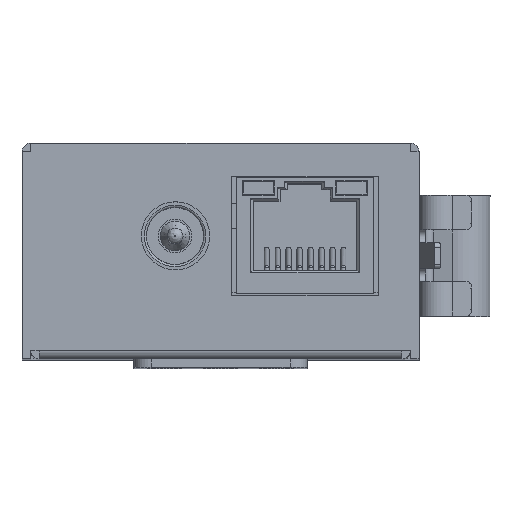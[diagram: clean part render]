
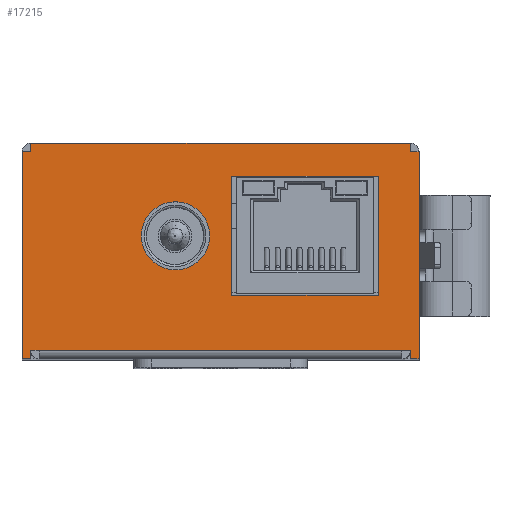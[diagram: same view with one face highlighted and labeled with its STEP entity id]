
A CAD part, top view. The second image highlights one B-rep face of the part: STEP entity #17215.
In plain terms, the highlighted planar face has unit normal (0, 0, 1).
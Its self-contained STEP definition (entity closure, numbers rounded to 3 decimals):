
#593=FACE_BOUND('',#3381,.T.);
#594=FACE_BOUND('',#3382,.T.);
#1128=PLANE('',#18881);
#2301=FACE_OUTER_BOUND('',#3380,.T.);
#3380=EDGE_LOOP('',(#15981,#15982,#15983,#15984,#15985,#15986,#15987,#15988,
#15989,#15990,#15991,#15992,#15993,#15994,#15995,#15996));
#3381=EDGE_LOOP('',(#15997,#15998,#15999,#16000));
#3382=EDGE_LOOP('',(#16001));
#4454=LINE('',#32411,#6071);
#4457=LINE('',#32417,#6074);
#4460=LINE('',#32423,#6077);
#4463=LINE('',#32427,#6080);
#4510=LINE('',#32552,#6127);
#4512=LINE('',#32558,#6129);
#4515=LINE('',#32564,#6132);
#4533=LINE('',#33089,#6150);
#4991=LINE('',#38003,#6608);
#4993=LINE('',#38006,#6610);
#4994=LINE('',#38007,#6611);
#4996=LINE('',#38012,#6613);
#4998=LINE('',#38016,#6615);
#5001=LINE('',#38024,#6618);
#5002=LINE('',#38025,#6619);
#5003=LINE('',#38026,#6620);
#5004=LINE('',#38028,#6621);
#5005=LINE('',#38029,#6622);
#6071=VECTOR('',#21827,10.);
#6074=VECTOR('',#21832,10.);
#6077=VECTOR('',#21837,10.);
#6080=VECTOR('',#21842,10.);
#6127=VECTOR('',#21981,10.);
#6129=VECTOR('',#21989,10.);
#6132=VECTOR('',#21996,10.);
#6150=VECTOR('',#22052,0.365);
#6608=VECTOR('',#23300,0.365);
#6610=VECTOR('',#23304,10.);
#6611=VECTOR('',#23305,10.);
#6613=VECTOR('',#23311,10.);
#6615=VECTOR('',#23317,10.);
#6618=VECTOR('',#23326,10.);
#6619=VECTOR('',#23327,10.);
#6620=VECTOR('',#23328,10.);
#6621=VECTOR('',#23329,10.);
#6622=VECTOR('',#23330,0.365);
#6989=CIRCLE('',#18410,3.95);
#7019=CIRCLE('',#18482,0.01);
#7040=CIRCLE('',#18507,0.01);
#8271=VERTEX_POINT('',#32408);
#8272=VERTEX_POINT('',#32410);
#8274=VERTEX_POINT('',#32416);
#8276=VERTEX_POINT('',#32422);
#8277=VERTEX_POINT('',#32429);
#8303=VERTEX_POINT('',#32539);
#8305=VERTEX_POINT('',#32545);
#8308=VERTEX_POINT('',#32550);
#8309=VERTEX_POINT('',#32557);
#8328=VERTEX_POINT('',#33087);
#8330=VERTEX_POINT('',#33097);
#8331=VERTEX_POINT('',#33099);
#8365=VERTEX_POINT('',#33174);
#8366=VERTEX_POINT('',#33176);
#8745=VERTEX_POINT('',#37985);
#8747=VERTEX_POINT('',#37988);
#8751=VERTEX_POINT('',#38002);
#8752=VERTEX_POINT('',#38011);
#8753=VERTEX_POINT('',#38018);
#8754=VERTEX_POINT('',#38020);
#8755=VERTEX_POINT('',#38027);
#10400=EDGE_CURVE('',#8272,#8271,#4454,.T.);
#10403=EDGE_CURVE('',#8274,#8272,#4457,.T.);
#10406=EDGE_CURVE('',#8276,#8274,#4460,.T.);
#10409=EDGE_CURVE('',#8271,#8276,#4463,.T.);
#10410=EDGE_CURVE('',#8277,#8277,#6989,.T.);
#10475=EDGE_CURVE('',#8305,#8308,#4510,.T.);
#10478=EDGE_CURVE('',#8309,#8303,#4512,.T.);
#10482=EDGE_CURVE('',#8303,#8305,#4515,.T.);
#10517=EDGE_CURVE('',#8328,#8308,#4533,.T.);
#10523=EDGE_CURVE('',#8330,#8331,#7019,.T.);
#10561=EDGE_CURVE('',#8366,#8365,#7040,.T.);
#11195=EDGE_CURVE('',#8751,#8309,#4991,.T.);
#11197=EDGE_CURVE('',#8747,#8365,#4993,.T.);
#11198=EDGE_CURVE('',#8366,#8745,#4994,.T.);
#11200=EDGE_CURVE('',#8751,#8752,#4996,.T.);
#11202=EDGE_CURVE('',#8752,#8745,#4998,.T.);
#11206=EDGE_CURVE('',#8753,#8330,#5001,.T.);
#11207=EDGE_CURVE('',#8331,#8754,#5002,.T.);
#11208=EDGE_CURVE('',#8747,#8754,#5003,.T.);
#11209=EDGE_CURVE('',#8328,#8755,#5004,.T.);
#11210=EDGE_CURVE('',#8753,#8755,#5005,.T.);
#15981=ORIENTED_EDGE('',*,*,#11206,.T.);
#15982=ORIENTED_EDGE('',*,*,#10523,.T.);
#15983=ORIENTED_EDGE('',*,*,#11207,.T.);
#15984=ORIENTED_EDGE('',*,*,#11208,.F.);
#15985=ORIENTED_EDGE('',*,*,#11197,.T.);
#15986=ORIENTED_EDGE('',*,*,#10561,.F.);
#15987=ORIENTED_EDGE('',*,*,#11198,.T.);
#15988=ORIENTED_EDGE('',*,*,#11202,.F.);
#15989=ORIENTED_EDGE('',*,*,#11200,.F.);
#15990=ORIENTED_EDGE('',*,*,#11195,.T.);
#15991=ORIENTED_EDGE('',*,*,#10478,.T.);
#15992=ORIENTED_EDGE('',*,*,#10482,.T.);
#15993=ORIENTED_EDGE('',*,*,#10475,.T.);
#15994=ORIENTED_EDGE('',*,*,#10517,.F.);
#15995=ORIENTED_EDGE('',*,*,#11209,.T.);
#15996=ORIENTED_EDGE('',*,*,#11210,.F.);
#15997=ORIENTED_EDGE('',*,*,#10406,.T.);
#15998=ORIENTED_EDGE('',*,*,#10403,.T.);
#15999=ORIENTED_EDGE('',*,*,#10400,.T.);
#16000=ORIENTED_EDGE('',*,*,#10409,.T.);
#16001=ORIENTED_EDGE('',*,*,#10410,.T.);
#17215=ADVANCED_FACE('',(#2301,#593,#594),#1128,.T.);
#18410=AXIS2_PLACEMENT_3D('',#32430,#21845,#21846);
#18482=AXIS2_PLACEMENT_3D('',#33101,#22064,#22065);
#18507=AXIS2_PLACEMENT_3D('',#33178,#22131,#22132);
#18881=AXIS2_PLACEMENT_3D('',#38023,#23324,#23325);
#21827=DIRECTION('',(-1.,0.,0.));
#21832=DIRECTION('',(0.,-1.,0.));
#21837=DIRECTION('',(1.,0.,0.));
#21842=DIRECTION('',(0.,1.,0.));
#21845=DIRECTION('center_axis',(0.,0.,
-1.));
#21846=DIRECTION('ref_axis',(1.,0.,0.));
#21981=DIRECTION('',(1.,0.,0.));
#21989=DIRECTION('',(1.,0.,0.));
#21996=DIRECTION('',(1.,0.,0.));
#22052=DIRECTION('',(0.,1.,0.));
#22064=DIRECTION('center_axis',(0.,0.,
1.));
#22065=DIRECTION('ref_axis',(1.,0.,0.));
#22131=DIRECTION('center_axis',(0.,0.,
-1.));
#22132=DIRECTION('ref_axis',(-1.,0.,0.));
#23300=DIRECTION('',(0.,1.,0.));
#23304=DIRECTION('',(0.,-1.,0.));
#23305=DIRECTION('',(-1.,0.,0.));
#23311=DIRECTION('',(-1.,0.,0.));
#23317=DIRECTION('',(0.,1.,0.));
#23324=DIRECTION('center_axis',(0.,0.,
1.));
#23325=DIRECTION('ref_axis',(0.,-1.,0.));
#23326=DIRECTION('',(-1.,0.,0.));
#23327=DIRECTION('',(0.,1.,0.));
#23328=DIRECTION('',(1.,0.,0.));
#23329=DIRECTION('',(1.,0.,0.));
#23330=DIRECTION('',(0.,-1.,0.));
#32408=CARTESIAN_POINT('',(1.28,1.35,1.12));
#32410=CARTESIAN_POINT('',(18.28,1.35,1.12));
#32411=CARTESIAN_POINT('',(9.14,1.35,1.12));
#32416=CARTESIAN_POINT('',(18.28,15.15,1.12));
#32417=CARTESIAN_POINT('',(18.28,10.684,1.12));
#32422=CARTESIAN_POINT('',(1.28,15.15,1.12));
#32423=CARTESIAN_POINT('',(0.64,15.15,1.12));
#32427=CARTESIAN_POINT('',(1.28,3.784,1.12));
#32429=CARTESIAN_POINT('',(-9.17,8.25,1.12));
#32430=CARTESIAN_POINT('Origin',(-5.22,8.25,1.12));
#32539=CARTESIAN_POINT('',(-20.99,-4.99,1.12));
#32545=CARTESIAN_POINT('',(20.99,-4.99,1.12));
#32550=CARTESIAN_POINT('',(22.,-4.99,1.12));
#32552=CARTESIAN_POINT('',(0.,-4.99,1.12));
#32557=CARTESIAN_POINT('',(-22.,-4.99,1.12));
#32558=CARTESIAN_POINT('',(0.,-4.99,1.12));
#32564=CARTESIAN_POINT('',(0.,-4.99,1.12));
#33087=CARTESIAN_POINT('',(22.,-6.,1.12));
#33089=CARTESIAN_POINT('',(22.,19.137,1.12));
#33097=CARTESIAN_POINT('',(22.,17.99,1.12));
#33099=CARTESIAN_POINT('',(21.99,18.,1.12));
#33101=CARTESIAN_POINT('Origin',(21.99,17.99,1.12));
#33174=CARTESIAN_POINT('',(-21.99,18.,1.12));
#33176=CARTESIAN_POINT('',(-22.,17.99,1.12));
#33178=CARTESIAN_POINT('Origin',(-21.99,17.99,1.12));
#37985=CARTESIAN_POINT('',(-23.,17.99,1.12));
#37988=CARTESIAN_POINT('',(-21.99,19.,1.12));
#38002=CARTESIAN_POINT('',(-22.,-6.,1.12));
#38003=CARTESIAN_POINT('',(-22.,19.137,1.12));
#38006=CARTESIAN_POINT('',(-21.99,18.,1.12));
#38007=CARTESIAN_POINT('',(-22.178,17.99,1.12));
#38011=CARTESIAN_POINT('',(-23.,-6.,1.12));
#38012=CARTESIAN_POINT('',(-22.,-6.,1.12));
#38016=CARTESIAN_POINT('',(-23.,17.99,1.12));
#38018=CARTESIAN_POINT('',(23.,17.99,1.12));
#38020=CARTESIAN_POINT('',(21.99,19.,1.12));
#38023=CARTESIAN_POINT('Origin',(22.,18.564,1.12));
#38024=CARTESIAN_POINT('',(22.178,17.99,1.12));
#38025=CARTESIAN_POINT('',(21.99,18.,1.12));
#38026=CARTESIAN_POINT('',(22.,19.,1.12));
#38027=CARTESIAN_POINT('',(23.,-6.,1.12));
#38028=CARTESIAN_POINT('',(22.,-6.,1.12));
#38029=CARTESIAN_POINT('',(23.,19.137,1.12));
